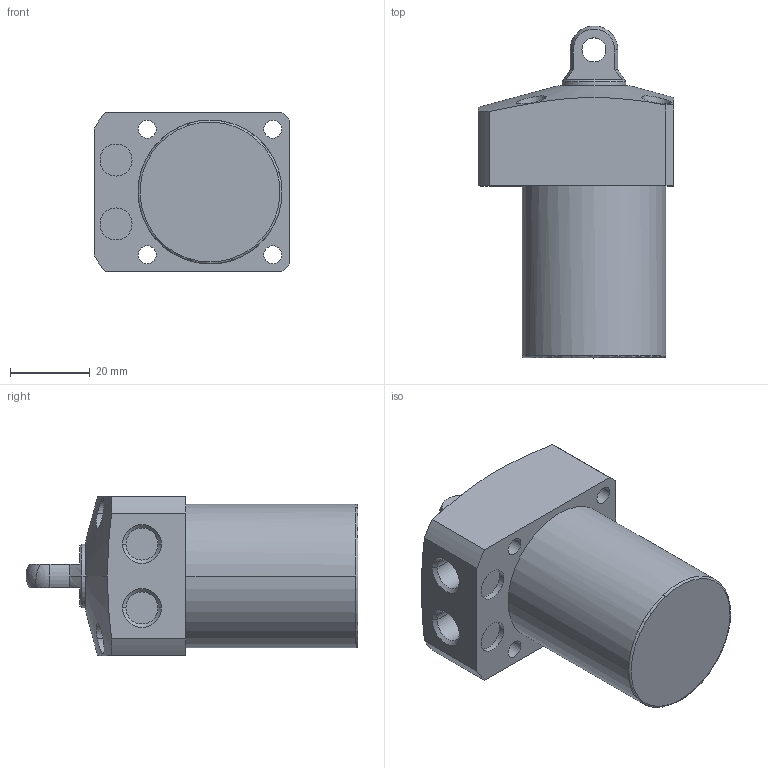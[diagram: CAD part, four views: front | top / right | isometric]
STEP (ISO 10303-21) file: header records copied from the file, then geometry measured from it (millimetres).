
FILE_DESCRIPTION((' '),'2;1');
FILE_NAME( 'TLL-036CP-035.STEP.stp', '2025-10-24T16:39:40', (' '), ('--- Datakit www.datakit.com---'), ' Datakit CrossCadWare V2024.1 Dec 21 2023', 'Mastercam 2025', ' ');
FILE_SCHEMA(('AUTOMOTIVE_DESIGN { 1 0 10303 214 1 1 1 1 }'));
Length unit declared in the file: millimetre
Products named in the file (1): TLL-036CP-035
Bounding box: 49 x 82.97 x 40 mm (x, y, z)
Volume: 85157.4 mm3; surface area: 14911 mm2
Topology: 1 solids, 1 shells, 67 faces, 202 edges, 145 vertices
Faces by surface type: cylinder 34, plane 21, cone 8, torus 2, sphere 2
Entity records: 4728 total; most frequent: CARTESIAN_POINT 2793, DIRECTION 418, ORIENTED_EDGE 400, EDGE_CURVE 200, AXIS2_PLACEMENT_3D 180, VERTEX_POINT 145, CIRCLE 112, EDGE_LOOP 87
